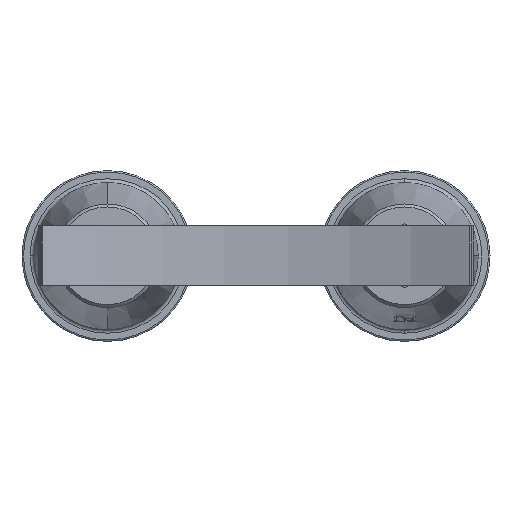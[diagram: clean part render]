
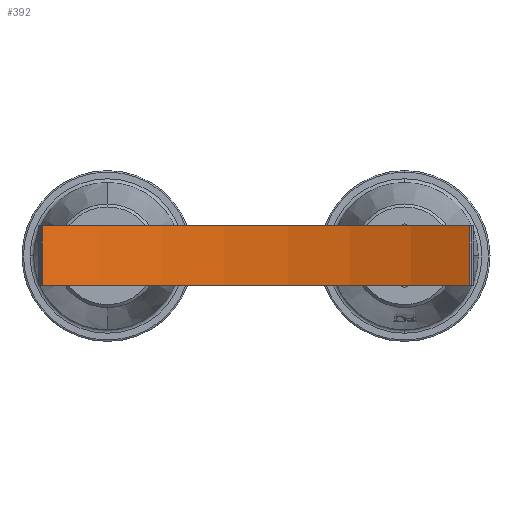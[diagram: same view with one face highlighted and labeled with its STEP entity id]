
A CAD part, top view. The second image highlights one B-rep face of the part: STEP entity #392.
In plain terms, the highlighted cylindrical face has radius 656 mm (diameter 1312 mm), a partial arc.
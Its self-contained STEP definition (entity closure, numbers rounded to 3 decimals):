
#392=ADVANCED_FACE('',(#904),#905,.F.);
#904=FACE_OUTER_BOUND('',#1605,.T.);
#905=CYLINDRICAL_SURFACE('',#1606,656.);
#1605=EDGE_LOOP('',(#2411,#2412,#2413,#2414));
#1606=AXIS2_PLACEMENT_3D('',#2415,#2416,#2417);
#2411=ORIENTED_EDGE('',*,*,#4070,.T.);
#2412=ORIENTED_EDGE('',*,*,#4060,.F.);
#2413=ORIENTED_EDGE('',*,*,#4071,.T.);
#2414=ORIENTED_EDGE('',*,*,#4067,.T.);
#2415=CARTESIAN_POINT('',(156.371,711.525,698.732));
#2416=DIRECTION('',(0.,1.0,0.));
#2417=DIRECTION('',(-1.0,0.,0.));
#4060=EDGE_CURVE('',#4812,#4807,#4814,.T.);
#4067=EDGE_CURVE('',#4824,#4822,#4825,.T.);
#4070=EDGE_CURVE('',#4822,#4807,#4828,.T.);
#4071=EDGE_CURVE('',#4812,#4824,#4829,.T.);
#4807=VERTEX_POINT('',#6390);
#4812=VERTEX_POINT('',#6397);
#4814=LINE('',#6400,#6401);
#4822=VERTEX_POINT('',#6410);
#4824=VERTEX_POINT('',#6413);
#4825=LINE('',#6414,#6415);
#4828=CIRCLE('',#6419,656.);
#4829=CIRCLE('',#6420,656.);
#6390=CARTESIAN_POINT('',(-131.649,791.525,109.342));
#6397=CARTESIAN_POINT('',(-131.649,711.525,109.342));
#6400=CARTESIAN_POINT('',(-131.649,711.525,109.342));
#6401=VECTOR('',#8765,1.);
#6410=CARTESIAN_POINT('',(444.39,791.525,109.342));
#6413=CARTESIAN_POINT('',(444.39,711.525,109.342));
#6414=CARTESIAN_POINT('',(444.39,711.525,109.342));
#6415=VECTOR('',#8774,1.);
#6419=AXIS2_PLACEMENT_3D('',#8776,#8777,#8778);
#6420=AXIS2_PLACEMENT_3D('',#8779,#8780,#8781);
#8765=DIRECTION('',(0.,1.0,0.));
#8774=DIRECTION('',(0.,1.0,0.));
#8776=CARTESIAN_POINT('',(156.371,791.525,698.732));
#8777=DIRECTION('',(0.,1.0,0.));
#8778=DIRECTION('',(-1.0,0.,0.));
#8779=CARTESIAN_POINT('',(156.371,711.525,698.732));
#8780=DIRECTION('',(0.,-1.0,0.));
#8781=DIRECTION('',(-1.0,0.,0.));
